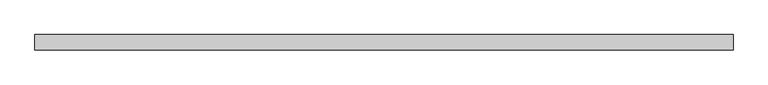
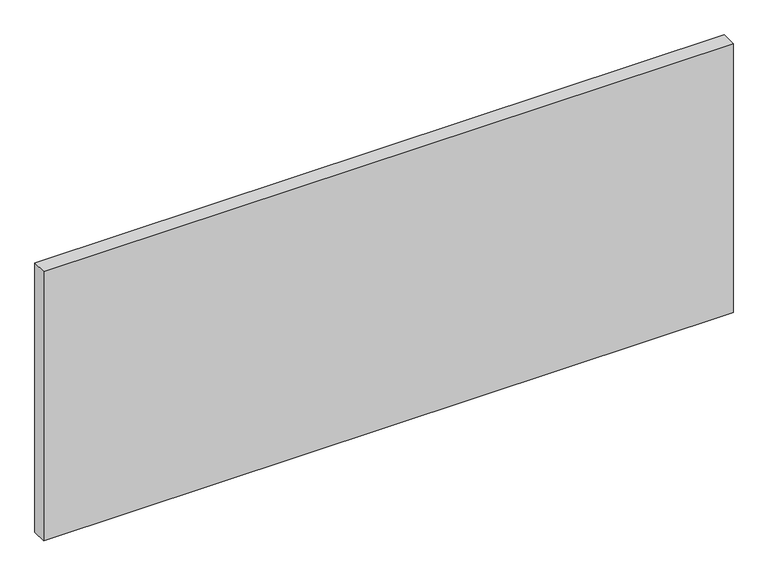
"""IFC4 building model written with IfcOpenShell, lengths in millimetres: proxy geometry, FOUNDATION^WORKSURFACES_LIFT TOP-69x28.5."""

from ifc_helpers import new_model, si_unit, frame, origin, place, context, project, spatial, polyline, outline, extrude, source, transform, mapped, element, save


def generic_models_3d88de87(model_context):
    return source(origin(), model_context, "Body", "SweptSolid", [
        extrude(outline(polyline([(1752.6, 0.0), (0.0, 0.0), (0.0, 38.1), (1752.6, 38.1), (1752.6, 0.0)])), frame((0.0, 0.0, -723.9), z_axis=(0.0, 0.0, 1.0), x_axis=(1.0, 0.0, 0.0)), (0.0, 0.0, 1.0), 723.9),
    ])


if __name__ == "__main__":
    model = new_model("IFC4")
    model_context = context("Model", 3, world=origin())
    ifc_project = project(units=[si_unit("LENGTHUNIT", "METRE", prefix="MILLI")], contexts=[model_context])
    site = spatial("IfcSite", under=ifc_project)
    building = spatial("IfcBuilding", under=site)
    placement = place(None, origin())
    generic_models_shape = generic_models_3d88de87(model_context)
    element("IfcBuildingElementProxy", 1, Name="FOUNDATION^WORKSURFACES_LIFT TOP-69x28.5", ObjectType="FOUNDATION^WORKSURFACES_LIFT TOP-69x28.5", at=placement, inside=building, context=model_context, shape_type="MappedRepresentation", body=[
        mapped(generic_models_shape, transform((0.0, 0.0, 0.0), x_axis=(1.0, 0.0, 0.0), y_axis=(0.0, 1.0, 0.0), z_axis=(0.0, 0.0, 1.0))),
    ])
    save(model, "model.ifc")
